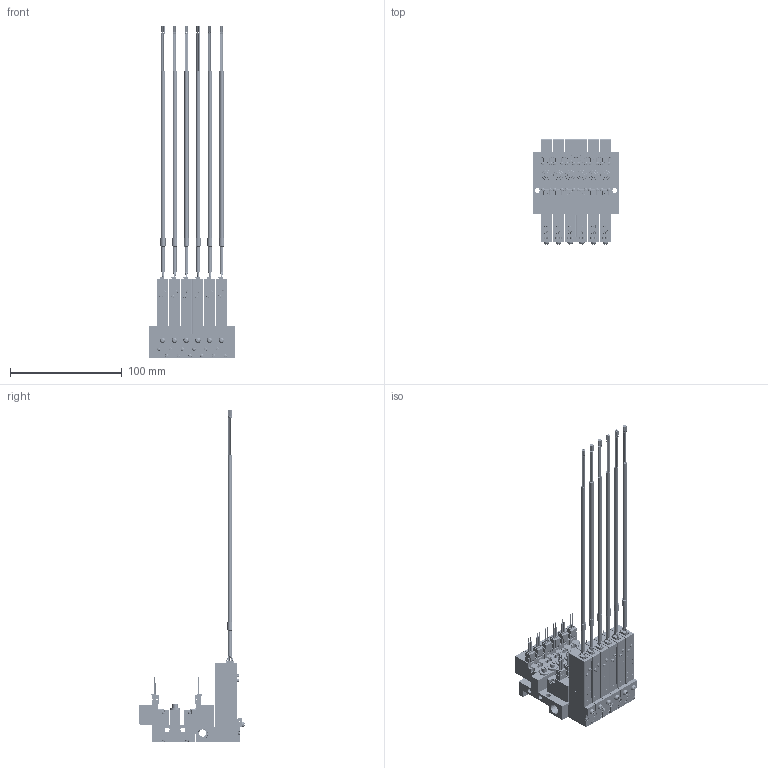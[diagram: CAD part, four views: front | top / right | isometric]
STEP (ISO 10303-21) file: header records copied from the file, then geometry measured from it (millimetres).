
FILE_DESCRIPTION(('STEP AP203'),'1');
FILE_NAME('1-NO(NC)-4EZ-M06-V9.stp','2025-05-08T08:51:45',(' '),(' '),'Spatial InterOp 3D',' ',' ');
FILE_SCHEMA(('CONFIG_CONTROL_DESIGN'));
Length unit declared in the file: millimetre
Products named in the file (200): PV1※1-NO(NC)-4EZ-M06-V9; BODY; PLATE; NEEDLE; BOLT; SOLENOID VALVE VOLTAGE PV; 42; 45; 48; 51; BRAKET(MPS-V9  PV용)NEW; BRAKET; MPS-V9AC.ics; __1; MPS-V9AC; MSBR-29_1; MSBR-28_1; MSBR-27_1; MSBR-26_1; MSBR-25_1; MSBR-24_1; MSBR-21_1; MSBR-7_1; MSBR-4_1; MSBR-1_1
Assembly tree (199 placements, depth 5):
  PV1※1-NO(NC)-4EZ-M06-V9
    BODY
    PLATE
    PLATE
    NEEDLE
    BOLT
    BOLT
    BOLT
    BOLT
    BOLT
    BOLT
    SOLENOID VALVE VOLTAGE PV
      42
      45
      48
      51
    SOLENOID VALVE VOLTAGE PV
      42
      45
      48
      51
    SOLENOID VALVE VOLTAGE PV
      42
      45
      48
      51
    NEEDLE
    SOLENOID VALVE VOLTAGE PV
      42
      45
      48
      51
    SOLENOID VALVE VOLTAGE PV
      42
      45
      48
      51
    NEEDLE
    SOLENOID VALVE VOLTAGE PV
      42
      45
      48
      51
    PLATE
    BOLT
    BOLT
    BOLT
    PLATE
    BOLT
    BOLT
    BOLT
    SOLENOID VALVE VOLTAGE PV
      42
      45
      48
      51
    NEEDLE
    SOLENOID VALVE VOLTAGE PV
      42
      45
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Bounding box: 76.5 x 94.29 x 297.25 mm (x, y, z)
Volume: 162544.3 mm3; surface area: 148768.9 mm2
Topology: 163 solids, 217 shells, 7831 faces, 21470 edges, 14549 vertices
Faces by surface type: plane 5980, cylinder 1387, torus 198, bspline 114, cone 68, extrusion 60, sphere 24
Full cylindrical faces by diameter (mm): 2 x18, 2.3 x12, 2.5 x6, 3 x30, 4.2 x14, 4.5 x2, 5 x12, 6.5 x1, 8.797 x2, 9 x6
Entity records: 260778 total; most frequent: CARTESIAN_POINT 50045, ORIENTED_EDGE 41720, DIRECTION 40772, EDGE_CURVE 21088, VECTOR 15822, LINE 15762, VERTEX_POINT 14428, AXIS2_PLACEMENT_3D 12475
